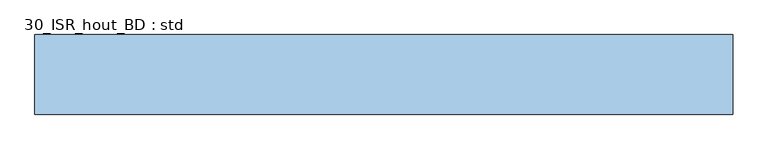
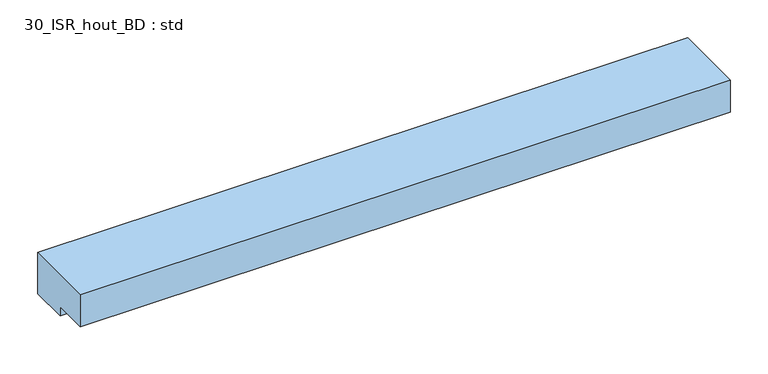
"""IFC4 building model written with IfcOpenShell, lengths in millimetres: window geometry, 30_ISR_hout_BD : std."""

from ifc_helpers import new_model, si_unit, frame, origin, place, context, project, spatial, polyline, outline, extrude, source, transform, mapped, element, save


def window_30_isr_hout_bd_std_b7062c2a(model_context):
    return source(origin(), model_context, "Body", "SweptSolid", [
        extrude(outline(polyline([(-114.0, 0.0), (0.0, 0.0), (0.0, -67.0), (-60.0, -67.0), (-60.0, -52.0), (-114.0, -52.0), (-114.0, 0.0)])), frame((0.0, 0.0, 0.0), z_axis=(1.0, 0.0, 0.0), x_axis=(0.0, 1.0, 0.0)), (0.0, 0.0, 1.0), 1000.0),
    ])


if __name__ == "__main__":
    model = new_model("IFC4")
    model_context = context("Model", 3, world=origin())
    ifc_project = project(units=[si_unit("LENGTHUNIT", "METRE", prefix="MILLI")], contexts=[model_context])
    site = spatial("IfcSite", under=ifc_project)
    building = spatial("IfcBuilding", under=site)
    placement = place(None, origin())
    window_30_isr_hout_bd_std_shape = window_30_isr_hout_bd_std_b7062c2a(model_context)
    element("IfcWindow", 1, ObjectType="30_ISR_hout_BD : std", at=placement, inside=building, context=model_context, shape_type="MappedRepresentation", body=[
        mapped(window_30_isr_hout_bd_std_shape, transform((0.0, 0.0, 0.0), x_axis=(1.0, 0.0, 0.0), y_axis=(0.0, 1.0, 0.0), z_axis=(0.0, 0.0, 1.0))),
    ])
    save(model, "model.ifc")
